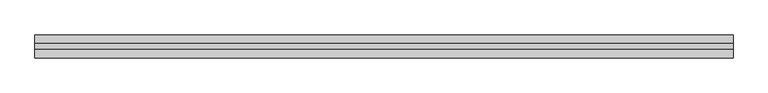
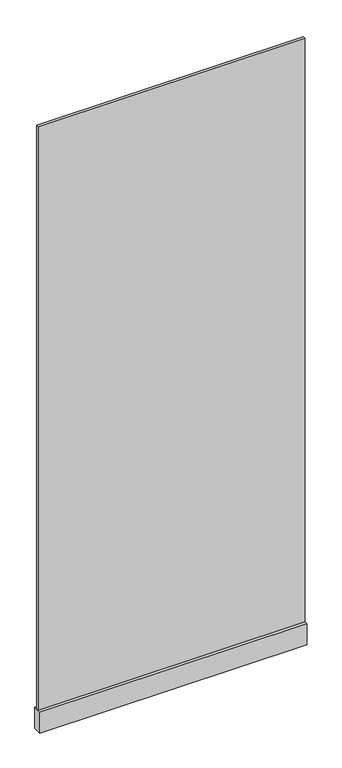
"""IFC4 building model written with IfcOpenShell, lengths in millimetres: plate geometry, r パネル FIX 下框付 : 框 H100."""

from ifc_helpers import new_model, si_unit, frame, origin, origin_with_axes, place, context, project, spatial, polyline, outline, extrude, source, transform, mapped, element, save


def plate_e86bd2e7(model_context):
    return source(origin(), model_context, "Body", "SweptSolid", [
        extrude(outline(polyline([(-605.9309555, -5.0), (-605.9309555, 5.0), (605.9309555, 5.0), (605.9309555, -5.0), (-605.9309555, -5.0)])), frame((0.0, 0.0, 100.0), z_axis=(0.0, 0.0, 1.0), x_axis=(1.0, 0.0, 0.0)), (0.0, 0.0, 1.0), 2800.0),
        extrude(outline(polyline([(-605.9309555, -20.0), (-605.9309555, 20.0), (605.9309555, 20.0), (605.9309555, -20.0), (-605.9309555, -20.0)])), origin_with_axes(), (0.0, 0.0, 1.0), 100.0),
    ])


if __name__ == "__main__":
    model = new_model("IFC4")
    model_context = context("Model", 3, world=origin())
    ifc_project = project(units=[si_unit("LENGTHUNIT", "METRE", prefix="MILLI")], contexts=[model_context])
    site = spatial("IfcSite", under=ifc_project)
    building = spatial("IfcBuilding", under=site)
    placement = place(None, origin())
    plate_shape = plate_e86bd2e7(model_context)
    element("IfcPlate", 1, ObjectType="r パネル FIX 下框付 : 框 H100", at=placement, inside=building, context=model_context, shape_type="MappedRepresentation", body=[
        mapped(plate_shape, transform((0.0, 0.0, 0.0), x_axis=(1.0, 0.0, 0.0), y_axis=(0.0, 1.0, 0.0), z_axis=(0.0, 0.0, 1.0))),
    ])
    save(model, "model.ifc")
